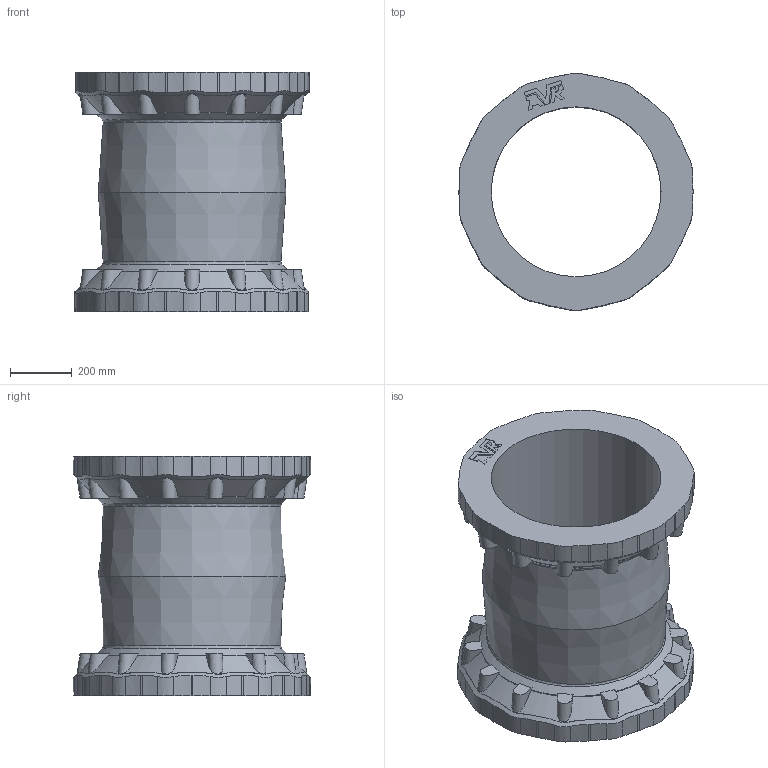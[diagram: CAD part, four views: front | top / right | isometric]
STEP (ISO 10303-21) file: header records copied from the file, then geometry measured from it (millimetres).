
FILE_DESCRIPTION (( 'STEP AP203' ), '1' );
FILE_NAME ('O_631_00_DN500_AA0.step', '2018-07-03T05:42:45', ( 'Windows User' ), ( 'AVK' ), 'SwSTEP 2.0', 'SolidWorks 2012', '' );
FILE_SCHEMA (( 'CONFIG_CONTROL_DESIGN' ));
Length unit declared in the file: millimetre
Products named in the file (1): O_631_00_DN500_AA0
Bounding box: 761.4 x 770.96 x 779.81 mm (x, y, z)
Volume: 68652961.3 mm3; surface area: 3631933.4 mm2
Topology: 1 solids, 1 shells, 521 faces, 1557 edges, 1044 vertices
Faces by surface type: cylinder 213, bspline 140, plane 128, cone 38, torus 2
Full cylindrical faces by diameter (mm): 552 x1
Entity records: 41097 total; most frequent: CARTESIAN_POINT 28472, ORIENTED_EDGE 3070, DIRECTION 2026, EDGE_CURVE 1535, VERTEX_POINT 1035, AXIS2_PLACEMENT_3D 797, B_SPLINE_CURVE_WITH_KNOTS 686, EDGE_LOOP 538
